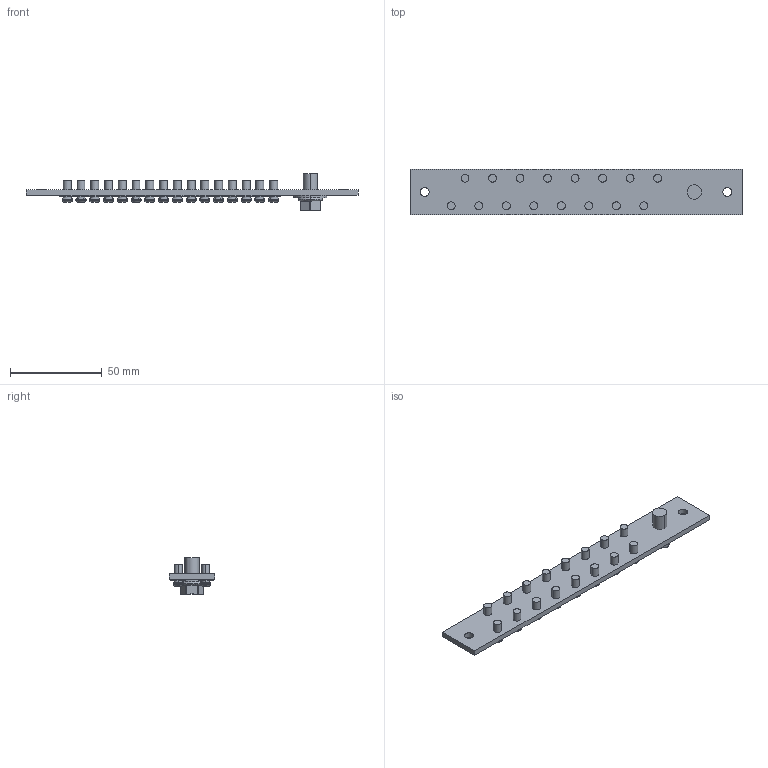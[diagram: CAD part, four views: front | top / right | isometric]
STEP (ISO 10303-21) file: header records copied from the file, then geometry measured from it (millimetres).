
FILE_DESCRIPTION(('Creo Elements/Direct Modeling STEP Export'),'2;1');
FILE_NAME('17.stp','2025-07-24T17:25:07',(''),(''),'PTC Creo Elements/Direct Modeling STEP processor for AP214 (Solid Model)','PTC Creo Elements/Direct Modeling 19.0 09-May-2014 (C) Parametric Technology GmbH','');
FILE_SCHEMA(('AUTOMOTIVE_DESIGN { 1 0 10303 214 1 1 1 1 }'));
Length unit declared in the file: millimetre
Products named in the file (16): QUILT_3-34740.PRT; QUILT_2-34360.PRT; QUILT_1-14960.PRT; USER_LIBRARY-SAN_ZU_HE_LUO-2060.PRT; M5_1_1_1_1_1_1_1_1_2.ASM; SCREW_1_2_PRT.PRT; SCREW_1_1_PRT.PRT; SCREW_1_ASM.ASM; SCREW_0723_STP.ASM; A1.ASM; CU.PRT; QUILT_3-85900.PRT; QUILT_2-85520.PRT; M5_1_1_1_1_1_1_1_1_1_1_1_1_1_1.ASM; 17N_1.ASM; 17.stp
Assembly tree (31 placements, depth 5):
  17.stp
    17N_1.ASM
      M5_1_1_1_1_1_1_1_1_1_1_1_1_1_1.ASM  x2
        QUILT_2-85520.PRT
        QUILT_3-85900.PRT
      CU.PRT
      A1.ASM
        M5_1_1_1_1_1_1_1_1_2.ASM  x8
          USER_LIBRARY-SAN_ZU_HE_LUO-2060.PRT
          QUILT_1-14960.PRT
          QUILT_2-34360.PRT
          QUILT_3-34740.PRT
      SCREW_0723_STP.ASM
        SCREW_1_ASM.ASM
          SCREW_1_1_PRT.PRT
          SCREW_1_2_PRT.PRT
      M5_1_1_1_1_1_1_1_1_2.ASM  x8
        USER_LIBRARY-SAN_ZU_HE_LUO-2060.PRT
        QUILT_1-14960.PRT
        QUILT_2-34360.PRT
        QUILT_3-34740.PRT
Bounding box: 181 x 25 x 20 mm (x, y, z)
Volume: 17595.8 mm3; surface area: 17201.6 mm2
Topology: 35 solids, 35 shells, 716 faces, 1813 edges, 1187 vertices
Faces by surface type: plane 400, cylinder 248, torus 68
Entity records: 4796 total; most frequent: CARTESIAN_POINT 751, DIRECTION 698, ORIENTED_EDGE 686, EDGE_CURVE 343, AXIS2_PLACEMENT_3D 263, VERTEX_POINT 227, EDGE_LOOP 178, VECTOR 172
